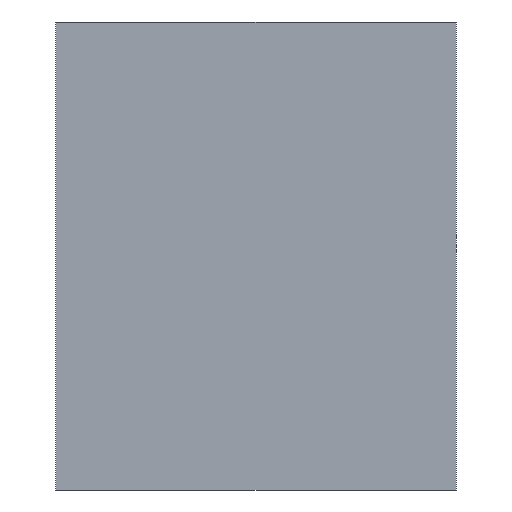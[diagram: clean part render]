
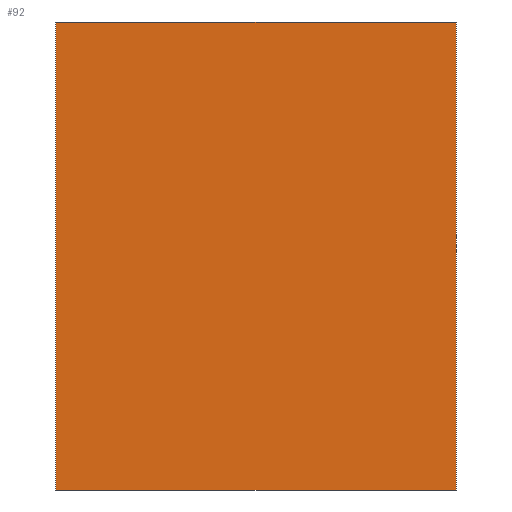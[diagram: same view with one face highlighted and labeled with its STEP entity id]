
A CAD part, top view. The second image highlights one B-rep face of the part: STEP entity #92.
In plain terms, the highlighted planar face has unit normal (0, 0, 1).
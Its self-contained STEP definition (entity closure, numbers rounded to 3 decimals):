
#53=CARTESIAN_POINT('Axis2P3D Location',(0.,0.,0.)) ;
#58=CARTESIAN_POINT('Line Origine',(59.,0.,0.)) ;
#62=CARTESIAN_POINT('Vertex',(0.,0.,0.)) ;
#64=CARTESIAN_POINT('Vertex',(118.,0.,0.)) ;
#67=CARTESIAN_POINT('Line Origine',(118.,69.,0.)) ;
#71=CARTESIAN_POINT('Vertex',(118.,138.,0.)) ;
#74=CARTESIAN_POINT('Line Origine',(59.,138.,0.)) ;
#78=CARTESIAN_POINT('Vertex',(0.,138.,0.)) ;
#81=CARTESIAN_POINT('Line Origine',(0.,69.,0.)) ;
#54=DIRECTION('Axis2P3D Direction',(0.,0.,1.)) ;
#55=DIRECTION('Axis2P3D XDirection',(1.,0.,0.)) ;
#59=DIRECTION('Vector Direction',(1.,0.,0.)) ;
#68=DIRECTION('Vector Direction',(0.,1.,0.)) ;
#75=DIRECTION('Vector Direction',(-1.,0.,0.)) ;
#82=DIRECTION('Vector Direction',(0.,-1.,0.)) ;
#56=AXIS2_PLACEMENT_3D('Plane Axis2P3D',#53,#54,#55) ;
#87=ORIENTED_EDGE('',*,*,#66,.T.) ;
#88=ORIENTED_EDGE('',*,*,#73,.T.) ;
#89=ORIENTED_EDGE('',*,*,#80,.T.) ;
#90=ORIENTED_EDGE('',*,*,#85,.T.) ;
#60=VECTOR('Line Direction',#59,1.) ;
#69=VECTOR('Line Direction',#68,1.) ;
#76=VECTOR('Line Direction',#75,1.) ;
#83=VECTOR('Line Direction',#82,1.) ;
#92=ADVANCED_FACE('Fill.1',(#91),#57,.T.) ;
#66=EDGE_CURVE('',#63,#65,#61,.T.) ;
#73=EDGE_CURVE('',#65,#72,#70,.T.) ;
#80=EDGE_CURVE('',#72,#79,#77,.T.) ;
#85=EDGE_CURVE('',#79,#63,#84,.T.) ;
#86=EDGE_LOOP('',(#87,#88,#89,#90)) ;
#91=FACE_OUTER_BOUND('',#86,.T.) ;
#61=LINE('Line',#58,#60) ;
#70=LINE('Line',#67,#69) ;
#77=LINE('Line',#74,#76) ;
#84=LINE('Line',#81,#83) ;
#57=PLANE('',#56) ;
#63=VERTEX_POINT('',#62) ;
#65=VERTEX_POINT('',#64) ;
#72=VERTEX_POINT('',#71) ;
#79=VERTEX_POINT('',#78) ;
